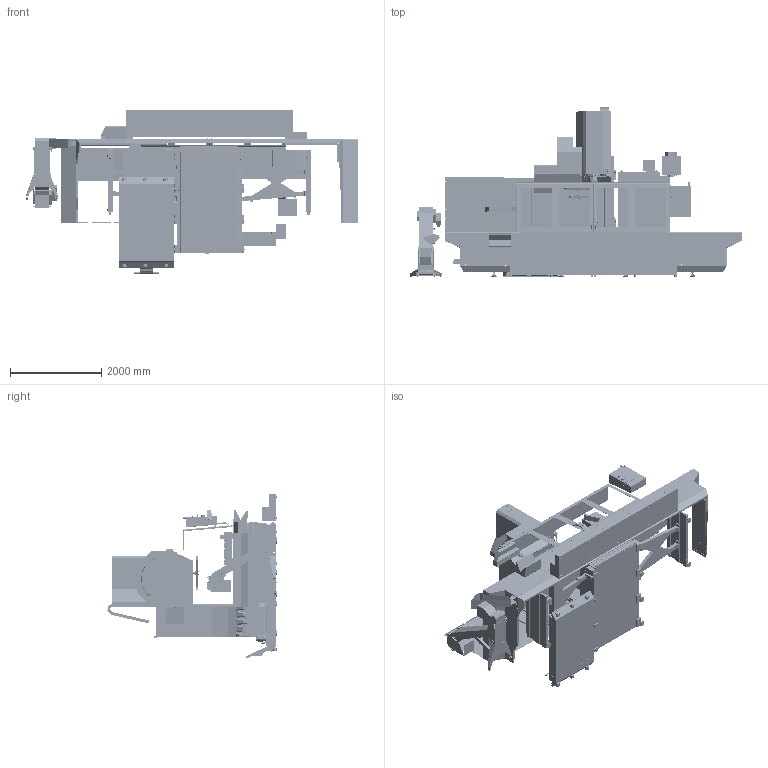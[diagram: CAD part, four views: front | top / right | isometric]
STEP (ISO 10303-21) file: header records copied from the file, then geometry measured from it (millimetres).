
FILE_DESCRIPTION (( 'STEP AP214' ), '1' );
FILE_NAME ('VF-10_50_STEP__7_2022.step', '2022-07-05T16:04:12', ( '' ), ( '' ), 'SwSTEP 2.0', 'SolidWorks 2021', '' );
FILE_SCHEMA (( 'AUTOMOTIVE_DESIGN' ));
Length unit declared in the file: inch
Products named in the file (55): HAAS CHIP-LIFT; 10000173171_defeature; VF-10_50_STEP__7_2022; HAAS-P-COOL; ENCLOSURE BOTTOM_VF-10_50_6_2022; NOZZLE; ENCLOSURE TOP_VF-10_50_6_2022; HPC_VF-10_50_6_2022; 95-GAL COOLANT TANK_VF-10_50_6_2022; TABLE_VF-10_50_6_2022; 95-Gal Coolant Tank; 10000095056_defeature; PENDANT AND STORAGE_SIMPLIFIED CLOSED; skrt; 50T Spindle_37-4212; BACK-PANEL; CHIP CHUTE_VF-10_50_6_2022; CONV-HOLDER-VF-MD; 1000012737_defeature; AIR-CABIN_CLOSED; 10000010579_defeature; PENDANT BODY; CARRIER_VF-10_50_6_2022; 10000128129_defeature; VF-10_TOP_50t; SADDLE_VF-10_50_6_2022; ENCLOSURE EXHAUST SYSTEM; DOOR_VF-10_50_6_2022; PROGRAMMABLE AIR; E-CABIN_VF-10_50_6_2022; CONV PKG_VF-10_50_6_2022; PENDANT STORAGE; SPINDLE HEAD_VF-10_50_6_2022; VF-10_DOOR; ELECTIRCAL CABINET_DOOR CLOSED; 10000010567_defeature; 50T ARM; PLATFORM-30-9158C; PENDANT_VF-10_50_6_2022; HCL_VF-10_50_6_2022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
Assembly tree (71 placements, depth 4):
  VF-10_50_STEP__7_2022
    BASE_VF-10_50_6_2022
      10000128129_defeature
    COLUMN_VF-10_50_6_2022
      1000012737_defeature
    SADDLE_VF-10_50_6_2022
      10000010579_defeature
    TABLE_VF-10_50_6_2022
      10000010567_defeature
    SPINDLE HEAD_VF-10_50_6_2022
      NOZZLE  x5
      SPINDLE HEAD 50T- VF_10-50
      50T Spindle_37-4212
    ENCLOSURE TOP_VF-10_50_6_2022
      VF-10_TOP_50t
      PANEL
      BACK-PANEL
    ENCLOSURE BOTTOM_VF-10_50_6_2022
      VF-10_BOTTOM
      skrt
    DOOR_VF-10_50_6_2022
      VF-10_DOOR
    PENDANT_VF-10_50_6_2022
      PENDANT AND STORAGE_SIMPLIFIED CLOSED
        PENDANT STORAGE
        PENDANT BODY
    A-CABIN_VF-10_50_6_2022
      AIR-CABIN_CLOSED
    E-CABIN_VF-10_50_6_2022
      ELECTIRCAL CABINET_DOOR CLOSED
    CARRIER_VF-10_50_6_2022
      CABBLE CARRIER
    30-SMTC ARM HIGH_VF-10_50_6_2022
      50T ARM
    30-SMTC ARM LOW_VF-10_50_6_2022
      50T ARM
    30-SMTC_VF-10_50_6_2022
      10000173171_defeature
    CONV PKG_VF-10_50_6_2022
      CONV-HOLDER-VF-MD
      CONV-SHELF-VF-MD
    95-GAL COOLANT TANK_VF-10_50_6_2022
      95-Gal Coolant Tank
    PADS_VF-10_50_6_2022
      Pads_DF  x12
    PA_VF-10_50_6_2022
      PROGRAMMABLE AIR
    HPC_VF-10_50_6_2022
      HAAS-P-COOL
    EES_VF-10_50_6_2022
      ENCLOSURE EXHAUST SYSTEM
    CHIP CHUTE_VF-10_50_6_2022
      10000095056_defeature
    HCL_VF-10_50_6_2022
      HAAS CHIP-LIFT
    PLATFORM-30-9158C  x2
Bounding box: 7291.32 x 3720.84 x 3614.75 mm (x, y, z)
Topology: 83 solids, 321 shells, 15384 faces, 41174 edges, 26340 vertices
Faces by surface type: plane 10106, cylinder 3739, bspline 736, cone 642, torus 117, sphere 44
Full cylindrical faces by diameter (mm): 0.762 x1, 0.782 x3, 0.825 x2, 1.219 x1, 1.524 x1, 3.81 x1, 4.674 x2, 4.826 x1, 5.014 x1, 5.319 x1, 5.334 x1, 5.446 x1, 5.953 x4, 6.096 x4, 6.139 x2, 7.112 x1, 8.636 x2, 8.738 x5, 9.124 x3, 9.987 x1, 12.7 x5, 13.081 x1, 13.894 x5, 26.924 x1, 50.8 x2, 127 x1, 152.4 x1
Entity records: 646014 total; most frequent: CARTESIAN_POINT 129143, ORIENTED_EDGE 92184, DIRECTION 84948, EDGE_CURVE 45910, VECTOR 33532, LINE 33532, VERTEX_POINT 29391, AXIS2_PLACEMENT_3D 25708
